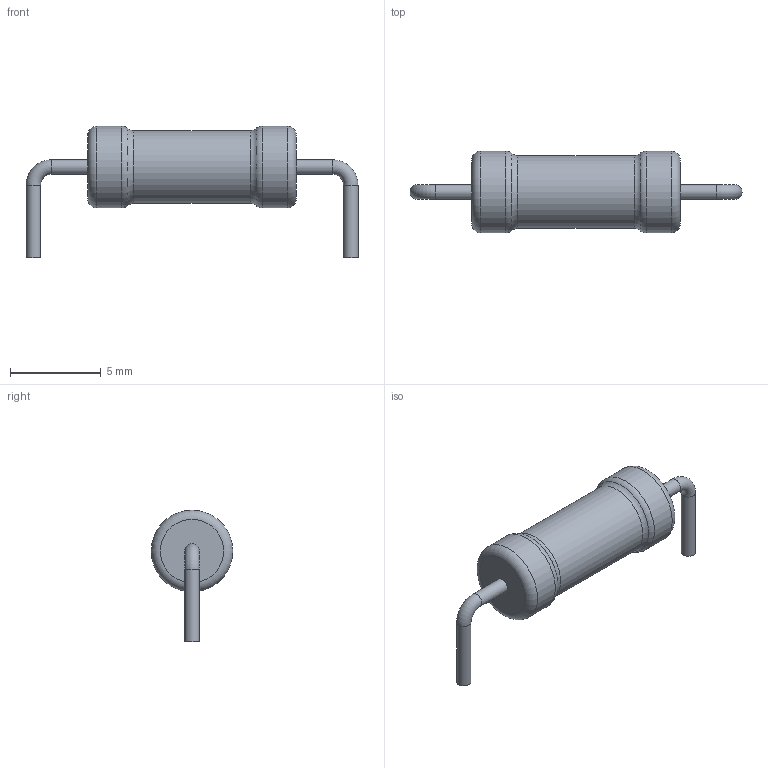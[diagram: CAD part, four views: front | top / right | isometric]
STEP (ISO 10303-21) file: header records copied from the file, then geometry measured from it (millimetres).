
FILE_DESCRIPTION(('STEP AP203'), '1');
FILE_NAME('R1-72-2M(1)', '', ('UNSPECIFIED'), ('UNSPECIFIED'), 'ASCON STEP Converter 1.6', 'ASCON Math Kernel', '');
FILE_SCHEMA(('CONFIG_CONTROL_DESIGN'));
Length unit declared in the file: millimetre
Bounding box: 18.3 x 4.5 x 7.25 mm (x, y, z)
Volume: 165.5 mm3; surface area: 216.7 mm2
Topology: 1 solids, 1 shells, 19 faces, 33 edges, 18 vertices
Faces by surface type: torus 8, cylinder 7, plane 4
Full cylindrical faces by diameter (mm): 0.8 x4, 4 x1, 4.5 x2
Entity records: 570 total; most frequent: DIRECTION 76, CARTESIAN_POINT 56, AXIS2_PLACEMENT_3D 38, EDGE_LOOP 36, ORIENTED_EDGE 36, FACE_OUTER_BOUND 30, COLOUR_RGB 20, FILL_AREA_STYLE_COLOUR 20
